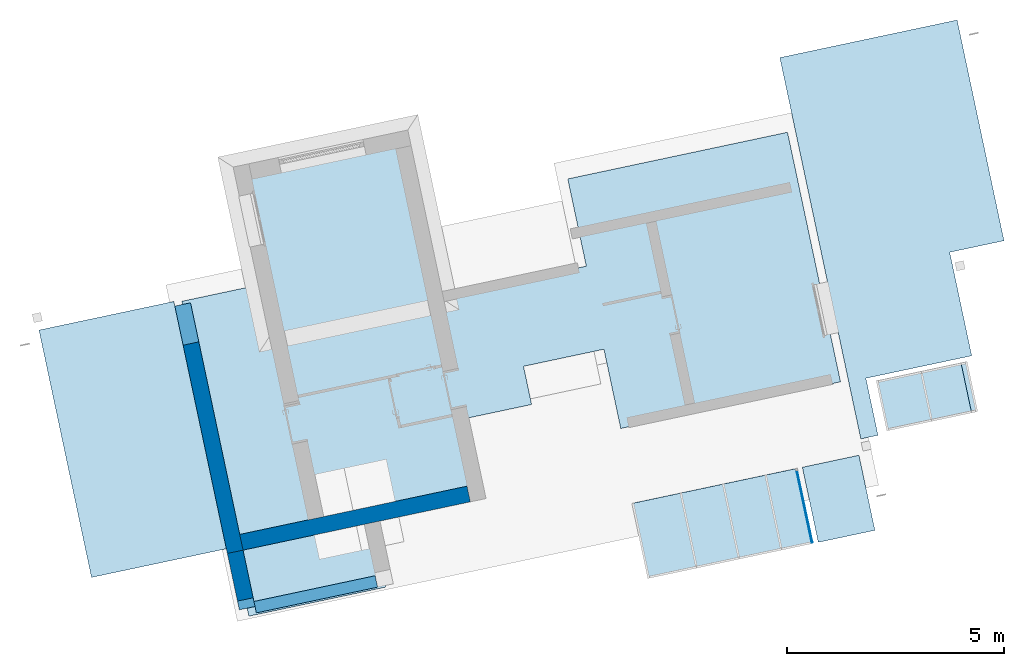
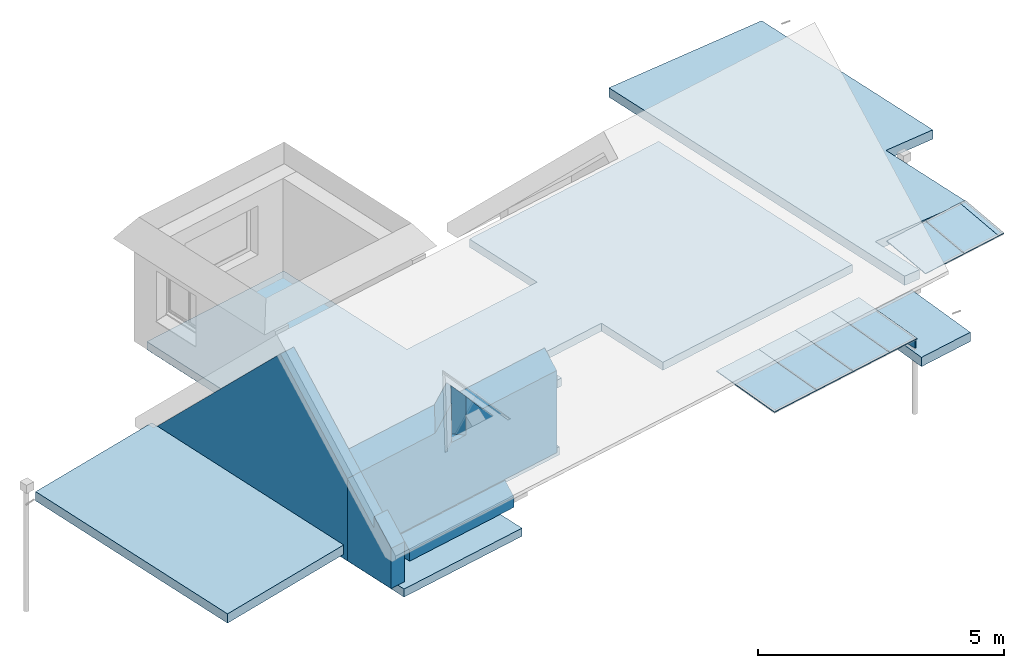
# One storey, part 2 of 10: 8 plates, 4 slabs, 4 walls, 6 elements without a shape of their own.
"""IFC2X3 building model written with IfcOpenShell, lengths in centimetres."""

from ifc_helpers import new_model, entity, si_unit, converted_unit, derived_unit, direction, frame, frame_2d, origin, place, context, subcontext, project, spatial, polyline, rectangle, outline, extrude, clip, bounded_halfspace, source, transform, mapped, material, layer, layer_set, layer_usage, type_object, type_shapes, element, aggregate, save


model = new_model("IFC2X3")

# Units and contexts
model_context = context("Model", 3, precision=0.001, world=origin(), true_north=direction((6.12303176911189e-17, 1.0)))
body_context = subcontext(model_context, "Body", "Model", "MODEL_VIEW")
ifc_project = project(units=[si_unit("LENGTHUNIT", "METRE", prefix="CENTI"), si_unit("AREAUNIT", "SQUARE_METRE"), si_unit("VOLUMEUNIT", "CUBIC_METRE"), converted_unit("PLANEANGLEUNIT", "DEGREE", entity("IfcRatioMeasure", 0.0174532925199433), si_unit("PLANEANGLEUNIT", "RADIAN"), dimensions=[0, 0, 0, 0, 0, 0, 0]), si_unit("MASSUNIT", "GRAM", prefix="KILO"), derived_unit("MASSDENSITYUNIT", [(si_unit("MASSUNIT", "GRAM", prefix="KILO"), 1), (si_unit("LENGTHUNIT", "METRE"), -3)]), derived_unit("IONCONCENTRATIONUNIT", [(si_unit("MASSUNIT", "GRAM", prefix="KILO"), 1), (si_unit("LENGTHUNIT", "METRE"), -3)]), derived_unit("MOMENTOFINERTIAUNIT", [(si_unit("LENGTHUNIT", "METRE"), 4)]), si_unit("TIMEUNIT", "SECOND"), si_unit("FREQUENCYUNIT", "HERTZ"), si_unit("THERMODYNAMICTEMPERATUREUNIT", "DEGREE_CELSIUS"), derived_unit("THERMALTRANSMITTANCEUNIT", [(si_unit("MASSUNIT", "GRAM", prefix="KILO"), 1), (si_unit("THERMODYNAMICTEMPERATUREUNIT", "KELVIN"), -1), (si_unit("TIMEUNIT", "SECOND"), -3)]), derived_unit("THERMALCONDUCTANCEUNIT", [(si_unit("MASSUNIT", "GRAM", prefix="KILO"), 1), (si_unit("THERMODYNAMICTEMPERATUREUNIT", "KELVIN"), -1), (si_unit("TIMEUNIT", "SECOND"), -3), (si_unit("LENGTHUNIT", "METRE"), 1)]), derived_unit("VOLUMETRICFLOWRATEUNIT", [(si_unit("LENGTHUNIT", "METRE"), 3), (si_unit("TIMEUNIT", "SECOND"), -1)]), derived_unit("MASSFLOWRATEUNIT", [(si_unit("MASSUNIT", "GRAM", prefix="KILO"), 1), (si_unit("TIMEUNIT", "SECOND"), -1)]), derived_unit("ROTATIONALFREQUENCYUNIT", [(si_unit("TIMEUNIT", "SECOND"), -1)]), si_unit("ELECTRICCURRENTUNIT", "AMPERE"), si_unit("ELECTRICVOLTAGEUNIT", "VOLT"), si_unit("POWERUNIT", "WATT"), si_unit("FORCEUNIT", "NEWTON", prefix="KILO"), si_unit("ILLUMINANCEUNIT", "LUX"), si_unit("LUMINOUSFLUXUNIT", "LUMEN"), si_unit("LUMINOUSINTENSITYUNIT", "CANDELA"), derived_unit("USERDEFINED", [(si_unit("MASSUNIT", "GRAM", prefix="KILO"), -1), (si_unit("LENGTHUNIT", "METRE"), -2), (si_unit("TIMEUNIT", "SECOND"), 3), (si_unit("LUMINOUSFLUXUNIT", "LUMEN"), 1)]), derived_unit("USERDEFINED", [(si_unit("MASSUNIT", "GRAM", prefix="KILO"), 1), (si_unit("TIMEUNIT", "SECOND"), -3), (si_unit("LENGTHUNIT", "METRE"), 3), (si_unit("ELECTRICCURRENTUNIT", "AMPERE"), -2)]), derived_unit("SOUNDPOWERUNIT", [(si_unit("MASSUNIT", "GRAM", prefix="KILO"), 1), (si_unit("TIMEUNIT", "SECOND"), -3), (si_unit("LENGTHUNIT", "METRE"), 2)]), derived_unit("SOUNDPRESSUREUNIT", [(si_unit("MASSUNIT", "GRAM", prefix="KILO"), 1), (si_unit("LENGTHUNIT", "METRE"), -1), (si_unit("TIMEUNIT", "SECOND"), -2)]), derived_unit("LINEARVELOCITYUNIT", [(si_unit("LENGTHUNIT", "METRE"), 1), (si_unit("TIMEUNIT", "SECOND"), -1)]), si_unit("PRESSUREUNIT", "PASCAL"), derived_unit("USERDEFINED", [(si_unit("MASSUNIT", "GRAM", prefix="KILO"), 1), (si_unit("LENGTHUNIT", "METRE"), -2), (si_unit("TIMEUNIT", "SECOND"), -2)]), derived_unit("LINEARFORCEUNIT", [(si_unit("MASSUNIT", "GRAM", prefix="KILO"), 1), (si_unit("TIMEUNIT", "SECOND"), -2)]), derived_unit("PLANARFORCEUNIT", [(si_unit("MASSUNIT", "GRAM", prefix="KILO"), 1), (si_unit("LENGTHUNIT", "METRE"), -1), (si_unit("TIMEUNIT", "SECOND"), -2)]), derived_unit("SPECIFICHEATCAPACITYUNIT", [(si_unit("THERMODYNAMICTEMPERATUREUNIT", "KELVIN"), -1), (si_unit("LENGTHUNIT", "METRE"), 2), (si_unit("TIMEUNIT", "SECOND"), -2)]), derived_unit("HEATINGVALUEUNIT", [(si_unit("LENGTHUNIT", "METRE"), 2), (si_unit("TIMEUNIT", "SECOND"), -2)]), derived_unit("VAPORPERMEABILITYUNIT", [(si_unit("LENGTHUNIT", "METRE"), -1), (si_unit("TIMEUNIT", "SECOND"), 1)]), derived_unit("DYNAMICVISCOSITYUNIT", [(si_unit("MASSUNIT", "GRAM", prefix="KILO"), 1), (si_unit("TIMEUNIT", "SECOND"), -1), (si_unit("LENGTHUNIT", "METRE"), -1)]), derived_unit("THERMALEXPANSIONCOEFFICIENTUNIT", [(si_unit("THERMODYNAMICTEMPERATUREUNIT", "KELVIN"), -1)]), derived_unit("MODULUSOFELASTICITYUNIT", [(si_unit("MASSUNIT", "GRAM", prefix="KILO"), 1), (si_unit("LENGTHUNIT", "METRE"), -1), (si_unit("TIMEUNIT", "SECOND"), -2)]), derived_unit("ISOTHERMALMOISTURECAPACITYUNIT", [(si_unit("LENGTHUNIT", "METRE"), 3), (si_unit("MASSUNIT", "GRAM", prefix="KILO"), -1)]), derived_unit("MOISTUREDIFFUSIVITYUNIT", [(si_unit("TIMEUNIT", "SECOND"), -1), (si_unit("LENGTHUNIT", "METRE"), 2)])], contexts=[model_context])

# Site, building, storey
site_placement = place(None, frame((14083.8920177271, -6853.25409548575, 6900.0), z_axis=(0.0, 0.0, 1.0), x_axis=(0.978188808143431, 0.207717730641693, 0.0)))
site = spatial("IfcSite", under=ifc_project, at=site_placement, Name="Surface", CompositionType="ELEMENT")
building_placement = place(site_placement, origin())
building = spatial("IfcBuilding", under=site, at=building_placement, CompositionType="ELEMENT")
storey_placement = place(building_placement, frame((0.0, 0.0, 289.0)))
storey = spatial("IfcBuildingStorey", under=building, at=storey_placement, Name="_R+1", CompositionType="ELEMENT", Elevation=289.0)

# Slab
ifc_material_1 = material(Name="Béton, précoulé")
ifc_layer_1 = layer(ifc_material_1, 20.0)
ifc_layer_set_1 = layer_set([ifc_layer_1], Name="Sol:*BETON 20")
ifc_layer_usage_1 = layer_usage(ifc_layer_set_1, "AXIS3", "POSITIVE", 0.0)
slab_type_1 = type_object("IfcSlabType", Name="Sol:*BETON 20", PredefinedType="FLOOR", material=ifc_layer_set_1)
slab_1_placement = place(storey_placement, origin())
element("IfcSlab", 1, at=slab_1_placement, inside=storey, type_object=slab_type_1, material=ifc_layer_usage_1, Name="Sol:*BETON 20", ObjectType="Sol:*BETON 20", PredefinedType="FLOOR", context=body_context, shape_type="SweptSolid", body=[
    extrude(outline(polyline([(-345.972496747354, -812.529262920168), (242.487478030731, -812.529262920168), (242.487478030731, -294.387338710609), (55.6343248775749, -294.387338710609), (55.6343248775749, -104.743505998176), (145.634324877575, -104.743505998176), (145.634324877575, 61.6126612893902), (323.987478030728, 61.6126612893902), (323.987478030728, 311.754796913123), (487.794657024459, 311.754796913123), (487.794657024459, 634.612661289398), (-254.779188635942, 634.612661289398), (-254.779188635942, 436.454665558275), (-514.507388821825, 436.454665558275), (-514.507388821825, 61.612661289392), (-140.279188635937, 61.612661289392), (-140.279188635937, -294.387338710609), (-345.972496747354, -294.387338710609), (-345.972496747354, -812.529262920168)])), frame((-7083.84248200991, 15181.6599559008, 0.0), z_axis=(0.0, 0.0, -1.0), x_axis=(0.0, -1.0, 0.0)), (0.0, 0.0, 1.0), 20.0),
])

# Roof, plates
curtain_wall_type_1 = type_object("IfcCurtainWallType", Name="Vitres inclinées:Toit en verre 1m x 2m", PredefinedType="NOTDEFINED")
roof_1_placement = place(storey_placement, frame((0.0, 0.0, -289.0)))
roof_1 = element("IfcRoof", 2, at=roof_1_placement, inside=storey, type_object=curtain_wall_type_1, Name="Vitres inclinées:Toit en verre 1m x 2m", ObjectType="Vitres inclinées:Toit en verre 1m x 2m", ShapeType="NOTDEFINED")
ifc_material_2 = material(Name="Fenêtre - Vitrage")
plate_type_1 = type_object("IfcPlateType", Name="Panneau système:*Vitré (décalé)", PredefinedType="CURTAIN_PANEL", material=ifc_material_2)
shared_shape_1 = source(origin(), body_context, "Body", "SweptSolid", [
    extrude(rectangle(XDim=2.0, YDim=115.500000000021, at=frame_2d((2.22044604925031e-16, 0.0), x_axis=(1.0, 0.0))), frame((0.0, 2.0, 0.0), z_axis=(0.0, 0.0, 1.0), x_axis=(0.0, 1.0, 0.0)), (0.0, 0.0, 1.0), 177.322222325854),
])
type_shapes(plate_type_1, [shared_shape_1])
plate_1_placement = place(roof_1_placement, frame((-6742.70514329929, 14587.6324526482, 355.0), z_axis=(0.0, 0.998408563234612, 0.0563945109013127), x_axis=(1.0, 0.0, 0.0)))
plate_1 = element("IfcPlate", 3, at=plate_1_placement, type_object=plate_type_1, material=ifc_material_2, Name="Panneau système:*Vitré (décalé)", ObjectType="Panneau système:*Vitré (décalé)", context=body_context, shape_type="MappedRepresentation", body=[
    mapped(shared_shape_1, transform((0.0, 0.0, 0.0), scale=1.0)),
])
plate_type_2 = type_object("IfcPlateType", Name="Panneau système:*Vitré (décalé)", PredefinedType="CURTAIN_PANEL", material=ifc_material_2)
shared_shape_2 = source(origin(), body_context, "Body", "SweptSolid", [
    extrude(rectangle(XDim=2.0, YDim=100.000000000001, at=frame_2d((2.22044604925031e-16, 0.0), x_axis=(1.0, 0.0))), frame((0.0, 2.0, 0.0), z_axis=(0.0, 0.0, 1.0), x_axis=(0.0, 1.0, 0.0)), (0.0, 0.0, 1.0), 177.322222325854),
])
type_shapes(plate_type_2, [shared_shape_2])
plate_2_placement = place(roof_1_placement, frame((-6634.95514329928, 14587.6324526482, 355.0), z_axis=(0.0, 0.998408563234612, 0.0563945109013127), x_axis=(1.0, 0.0, 0.0)))
plate_2 = element("IfcPlate", 4, at=plate_2_placement, type_object=plate_type_2, material=ifc_material_2, Name="Panneau système:*Vitré (décalé)", ObjectType="Panneau système:*Vitré (décalé)", context=body_context, shape_type="MappedRepresentation", body=[
    mapped(shared_shape_2, transform((0.0, 0.0, 0.0), scale=1.0)),
])
plate_3_placement = place(roof_1_placement, frame((-6534.95514329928, 14587.6324526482, 355.0), z_axis=(0.0, 0.998408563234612, 0.0563945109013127), x_axis=(1.0, 0.0, 0.0)))
plate_3 = element("IfcPlate", 5, at=plate_3_placement, type_object=plate_type_2, material=ifc_material_2, Name="Panneau système:*Vitré (décalé)", ObjectType="Panneau système:*Vitré (décalé)", context=body_context, shape_type="MappedRepresentation", body=[
    mapped(shared_shape_2, transform((0.0, 0.0, 0.0), scale=1.0)),
])
plate_type_3 = type_object("IfcPlateType", Name="Panneau système:*Vitré (décalé)", PredefinedType="CURTAIN_PANEL", material=ifc_material_2)
shared_shape_3 = source(origin(), body_context, "Body", "SweptSolid", [
    extrude(rectangle(XDim=2.0, YDim=74.6419242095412, at=frame_2d((2.22044604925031e-16, 0.0), x_axis=(1.0, 0.0))), frame((0.0, 2.0, 0.0), z_axis=(0.0, 0.0, 1.0), x_axis=(0.0, 1.0, 0.0)), (0.0, 0.0, 1.0), 177.322222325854),
])
type_shapes(plate_type_3, [shared_shape_3])
plate_4_placement = place(roof_1_placement, frame((-6447.63418119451, 14587.6324526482, 355.0), z_axis=(0.0, 0.998408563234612, 0.0563945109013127), x_axis=(1.0, 0.0, 0.0)))
plate_4 = element("IfcPlate", 6, at=plate_4_placement, type_object=plate_type_3, material=ifc_material_2, Name="Panneau système:*Vitré (décalé)", ObjectType="Panneau système:*Vitré (décalé)", context=body_context, shape_type="MappedRepresentation", body=[
    mapped(shared_shape_3, transform((0.0, 0.0, 0.0), scale=1.0)),
])
aggregate(roof_1, [plate_1, plate_2, plate_3, plate_4])

# Curtain wall, plate
curtain_wall_type_2 = type_object("IfcCurtainWallType", Name="Mur-rideau:*Mur-rideau", PredefinedType="NOTDEFINED")
curtain_wall_placement = place(storey_placement, frame((0.0, 0.0, -289.0)))
curtain_wall = element("IfcCurtainWall", 7, at=curtain_wall_placement, inside=storey, type_object=curtain_wall_type_2, Name="Mur-rideau:*Mur-rideau", ObjectType="Mur-rideau:*Mur-rideau")
plate_type_4 = type_object("IfcPlateType", Name="Panneau système:*Vitré (décalé)", PredefinedType="CURTAIN_PANEL", material=ifc_material_2)
shared_shape_4 = source(origin(), body_context, "Body", "SweptSolid", [
    extrude(outline(polyline([(-12.9589990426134, -84.7093490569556), (8.17424209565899, -84.7093490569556), (17.7437559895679, 84.7093490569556), (-12.9589990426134, 84.7093490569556), (-12.9589990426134, -84.7093490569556)])), frame((0.0, 1.0, 12.9589990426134), z_axis=(0.0, 1.0, 0.0), x_axis=(0.0, 0.0, 1.0)), (0.0, 0.0, 1.0), 2.0),
])
type_shapes(plate_type_4, [shared_shape_4])
plate_5_placement = place(curtain_wall_placement, frame((-6410.31321908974, 14674.8418017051, 329.0), z_axis=(0.0, 0.0, 1.0), x_axis=(0.0, 1.0, 0.0)))
plate_5 = element("IfcPlate", 8, at=plate_5_placement, type_object=plate_type_4, material=ifc_material_2, Name="Panneau système:*Vitré (décalé)", ObjectType="Panneau système:*Vitré (décalé)", context=body_context, shape_type="MappedRepresentation", body=[
    mapped(shared_shape_4, transform((0.0, 0.0, 0.0), scale=1.0)),
])
aggregate(curtain_wall, [plate_5])

# Roof, plates
roof_2_placement = place(storey_placement, frame((0.0, 0.0, -289.0)))
roof_2 = element("IfcRoof", 9, at=roof_2_placement, inside=storey, type_object=curtain_wall_type_1, Name="Vitres inclinées:Toit en verre 1m x 2m", ObjectType="Vitres inclinées:Toit en verre 1m x 2m", ShapeType="NOTDEFINED")
plate_type_5 = type_object("IfcPlateType", Name="Panneau système:*Vitré (décalé)", PredefinedType="CURTAIN_PANEL", material=ifc_material_2)
shared_shape_5 = source(origin(), body_context, "Body", "SweptSolid", [
    extrude(rectangle(XDim=2.0, YDim=106.0, at=frame_2d((2.22044604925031e-16, 0.0), x_axis=(1.0, 0.0))), frame((0.0, 2.0, 0.0), z_axis=(0.0, 0.0, 1.0), x_axis=(0.0, 1.0, 0.0)), (0.0, 0.0, 1.0), 119.577542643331),
])
type_shapes(plate_type_5, [shared_shape_5])
plate_6_placement = place(roof_2_placement, frame((-6137.31321908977, 14806.1673447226, 299.0), z_axis=(0.0, 0.985913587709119, 0.167255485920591), x_axis=(1.0, 0.0, 0.0)))
plate_6 = element("IfcPlate", 10, at=plate_6_placement, type_object=plate_type_5, material=ifc_material_2, Name="Panneau système:*Vitré (décalé)", ObjectType="Panneau système:*Vitré (décalé)", context=body_context, shape_type="MappedRepresentation", body=[
    mapped(shared_shape_5, transform((0.0, 0.0, 0.0), scale=1.0)),
])
plate_type_6 = type_object("IfcPlateType", Name="Panneau système:*Vitré (décalé)", PredefinedType="CURTAIN_PANEL", material=ifc_material_2)
shared_shape_6 = source(origin(), body_context, "Body", "SweptSolid", [
    extrude(rectangle(XDim=2.0, YDim=93.9999999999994, at=frame_2d((2.22044604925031e-16, 0.0), x_axis=(1.0, 0.0))), frame((0.0, 2.0, 0.0), z_axis=(0.0, 0.0, 1.0), x_axis=(0.0, 1.0, 0.0)), (0.0, 0.0, 1.0), 119.577542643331),
])
type_shapes(plate_type_6, [shared_shape_6])
plate_7_placement = place(roof_2_placement, frame((-6037.31321908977, 14806.1673447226, 299.0), z_axis=(0.0, 0.985913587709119, 0.167255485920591), x_axis=(1.0, 0.0, 0.0)))
plate_7 = element("IfcPlate", 11, at=plate_7_placement, type_object=plate_type_6, material=ifc_material_2, Name="Panneau système:*Vitré (décalé)", ObjectType="Panneau système:*Vitré (décalé)", context=body_context, shape_type="MappedRepresentation", body=[
    mapped(shared_shape_6, transform((0.0, 0.0, 0.0), scale=1.0)),
])
plate_type_7 = type_object("IfcPlateType", Name="Panneau système:*Vitré (décalé)", PredefinedType="CURTAIN_PANEL", material=ifc_material_2)
shared_shape_7 = source(origin(), body_context, "Body", "SweptSolid", [
    extrude(rectangle(XDim=2.0, YDim=14.500000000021, at=frame_2d((2.22044604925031e-16, 0.0), x_axis=(1.0, 0.0))), frame((0.0, 2.0, 0.0), z_axis=(0.0, 0.0, 1.0), x_axis=(0.0, 1.0, 0.0)), (0.0, 0.0, 1.0), 119.577542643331),
])
type_shapes(plate_type_7, [shared_shape_7])
plate_8_placement = place(roof_2_placement, frame((-5983.06321908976, 14806.1673447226, 299.0), z_axis=(0.0, 0.985913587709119, 0.167255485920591), x_axis=(1.0, 0.0, 0.0)))
plate_8 = element("IfcPlate", 12, at=plate_8_placement, type_object=plate_type_7, material=ifc_material_2, Name="Panneau système:*Vitré (décalé)", ObjectType="Panneau système:*Vitré (décalé)", context=body_context, shape_type="MappedRepresentation", body=[
    mapped(shared_shape_7, transform((0.0, 0.0, 0.0), scale=1.0)),
])
aggregate(roof_2, [plate_6, plate_7, plate_8])

# Roof, slab
roof_3_placement = place(storey_placement, frame((-6398.31321908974, 14587.6324526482, -11.0315639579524)))
roof_3 = element("IfcRoof", 13, at=roof_3_placement, inside=storey, Name="Toit de base:Bac zinc Ep 23mm", ObjectType="Toit de base:Bac zinc Ep 23mm", ShapeType="NOTDEFINED")
ifc_material_3 = material(Name="1212.FINITION FACADE - Bardage Zinc ton gris")
ifc_layer_2 = layer(ifc_material_3, 1.0)
ifc_material_4 = material(Name="Bois d'oeuvre, C16")
ifc_layer_3 = layer(ifc_material_4, 22.0)
ifc_layer_set_2 = layer_set([ifc_layer_2, ifc_layer_3], Name="Toit de base:Bac zinc Ep 23mm")
slab_type_2 = type_object("IfcSlabType", Name="Toit de base:Bac zinc Ep 23mm", PredefinedType="ROOF")
slab_2_placement = place(roof_3_placement, origin())
slab_2 = element("IfcSlab", 14, at=slab_2_placement, type_object=slab_type_2, material=ifc_layer_set_2, Name="Toit de base:Bac zinc Ep 23mm", ObjectType="Toit de base:Bac zinc Ep 23mm", PredefinedType="ROOF", context=body_context, shape_type="SweptSolid", body=[
    extrude(rectangle(XDim=133.499999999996, YDim=177.472338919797, at=frame_2d((0.0, 0.0), x_axis=(-1.0, 0.0))), frame((66.7499999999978, 88.5200126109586, 6.18992227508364), z_axis=(0.0, -0.0697564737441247, 0.997564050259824), x_axis=(1.0, 0.0, 0.0)), (0.0, 0.0697564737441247, 0.997564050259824), 23.0561636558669),
])
aggregate(roof_3, [slab_2])

roof_4_placement = place(storey_placement, frame((-6252.81321908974, 14800.6673447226, -17.7529898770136)))
roof_4 = element("IfcRoof", 15, at=roof_4_placement, inside=storey, Name="Toit de base:Bac zinc Ep 23mm", ObjectType="Toit de base:Bac zinc Ep 23mm", ShapeType="NOTDEFINED")
slab_3_placement = place(roof_4_placement, origin())
slab_3 = element("IfcSlab", 16, at=slab_3_placement, type_object=slab_type_2, material=ifc_layer_set_2, Name="Toit de base:Bac zinc Ep 23mm", ObjectType="Toit de base:Bac zinc Ep 23mm", PredefinedType="ROOF", context=body_context, shape_type="SweptSolid", body=[
    extrude(outline(polyline([(-209.510356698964, 449.499999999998), (-209.510356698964, -449.499999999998), (-168.911459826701, -449.499999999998), (-168.911459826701, -315.106875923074), (81.197793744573, -315.106875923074), (81.197793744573, -304.106875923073), (81.197793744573, -71.0), (209.510356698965, -71.0), (209.510356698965, -59.4999999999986), (209.510356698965, 449.499999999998), (199.485937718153, 449.499999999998), (-203.495705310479, 449.499999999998), (-209.510356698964, 449.499999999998)])), frame((209.0, 449.499999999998, 14.6147036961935), z_axis=(0.0697564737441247, 0.0, 0.997564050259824), x_axis=(0.997564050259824, 0.0, -0.0697564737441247)), (-0.0697564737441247, 0.0, 0.997564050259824), 23.0561636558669),
])
aggregate(roof_4, [slab_3])

roof_5_placement = place(storey_placement, frame((-8054.9551432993, 14856.6724778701, -11.8253585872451)))
roof_5 = element("IfcRoof", 17, at=roof_5_placement, inside=storey, Name="Toit de base:Bac zinc Ep 23mm", ObjectType="Toit de base:Bac zinc Ep 23mm", ShapeType="NOTDEFINED")
slab_4_placement = place(roof_5_placement, origin())
slab_4 = element("IfcSlab", 18, at=slab_4_placement, type_object=slab_type_2, material=ifc_layer_set_2, Name="Toit de base:Bac zinc Ep 23mm", ObjectType="Toit de base:Bac zinc Ep 23mm", PredefinedType="ROOF", context=body_context, shape_type="SweptSolid", body=[
    extrude(rectangle(XDim=318.776523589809, YDim=583.266666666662, at=frame_2d((-4.40536496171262e-13, 0.0), x_axis=(1.0, 0.0))), frame((159.0, 291.633333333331, 11.1183630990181), z_axis=(-0.0697564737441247, 0.0, 0.997564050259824), x_axis=(0.997564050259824, 0.0, 0.0697564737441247)), (0.0697564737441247, 0.0, 0.997564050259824), 23.0561636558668),
])
aggregate(roof_5, [slab_4])

# Walls
ifc_material_5 = material(Name="__ ENDUIT_Blanc")
ifc_layer_4 = layer(ifc_material_5, 2.0)
ifc_material_6 = material(Name="__ BETON_parpaings")
ifc_layer_5 = layer(ifc_material_6, 20.0)
ifc_material_7 = material(Name="__ ISOLANT (pat 1)")
ifc_layer_6 = layer(ifc_material_7, 13.0)
ifc_layer_7 = layer(ifc_material_5, 2.0)
ifc_layer_set_3 = layer_set([ifc_layer_4, ifc_layer_5, ifc_layer_6, ifc_layer_7], Name="Mur de base:*BRIQUE 37 (20 +INT 13+2 + EXT 2) (Iso+BA13)(enduit)")
ifc_layer_usage_2 = layer_usage(ifc_layer_set_3, "AXIS2", "NEGATIVE", 18.5)
wall_type_1 = type_object("IfcWallType", Name="Mur de base:*BRIQUE 37 (20 +INT 13+2 + EXT 2) (Iso+BA13)(enduit)", PredefinedType="STANDARD", material=ifc_layer_set_3)
wall_1_placement = place(storey_placement, frame((-7163.95514329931, 14864.1724778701, 0.0), z_axis=(0.0, 0.0, 1.0), x_axis=(-1.0, 0.0, 0.0)))
element("IfcWallStandardCase", 19, at=wall_1_placement, inside=storey, type_object=wall_type_1, material=ifc_layer_usage_2, Name="Mur de base:*BRIQUE 37 (20 +INT 13+2 + EXT 2) (Iso+BA13)(enduit)", ObjectType="Mur de base:*BRIQUE 37 (20 +INT 13+2 + EXT 2) (Iso+BA13)(enduit)", context=body_context, shape_type="Clipping", body=[
    clip(clip(clip(clip(clip(extrude(rectangle(XDim=535.999999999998, YDim=36.9999999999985, at=frame_2d((267.999999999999, -1.77635683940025e-15), x_axis=(-1.0, 0.0))), origin(), (0.0, 0.0, 1.0), 280.175359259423), bounded_halfspace(frame((536.0, -18.500000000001, 241.0), z_axis=(0.0, 0.707106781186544, 0.707106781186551), x_axis=(-1.0, 0.0, 0.0)), False, frame((536.0, -18.500000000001, 241.0)), polyline([(0.0, 0.0), (0.0, 37.0), (-203.39193748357, 37.0), (-234.43862383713, 0.0), (0.0, 0.0)]))), bounded_halfspace(frame((332.608062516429, 18.4999999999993, 204.0), z_axis=(0.766044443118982, 0.0, 0.642787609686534), x_axis=(0.0, 1.0, 0.0)), False, frame((332.608062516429, 18.4999999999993, 204.0)), polyline([(0.0, 0.0), (-43.906644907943, 0.0), (-63.9187158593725, -23.8494574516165), (-63.9187158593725, -37.0), (-31.0466863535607, -37.0), (0.0, 0.0)]))), bounded_halfspace(frame((235.817317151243, -18.4999999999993, 241.0), z_axis=(-0.766044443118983, 0.0, 0.642787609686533), x_axis=(0.0, 1.0, 0.0)), False, frame((235.817317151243, -18.4999999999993, 241.0)), polyline([(0.0, 0.0), (21.8374141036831, 0.0), (32.8720295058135, 0.0), (32.8720295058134, 13.1505425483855), (12.8599585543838, 37.0), (-31.0466863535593, 37.0), (0.0, 0.0)]))), bounded_halfspace(frame((0.0, -18.500000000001, 241.0), z_axis=(0.0, 0.707106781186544, 0.707106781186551), x_axis=(-1.0, 0.0, 0.0)), False, frame((0.0, -18.500000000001, 241.0)), polyline([(0.0, 0.0), (235.81731715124, 0.0), (204.770630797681, 37.0), (0.0, 37.0), (0.0, 0.0)]))), bounded_halfspace(frame((268.689346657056, -5.34945745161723, 160.0), z_axis=(0.0, 0.0, 1.0), x_axis=(0.0, 1.0, 0.0)), False, frame((268.689346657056, -5.34945745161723, 160.0)), polyline([(0.0, 0.0), (20.0120709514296, 23.8494574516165), (-20.0120709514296, 23.8494574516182), (0.0, 0.0)]))),
])
wall_2_placement = place(storey_placement, frame((-7718.4551432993, 14845.6724778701, 0.0), z_axis=(0.0, 0.0, 1.0), x_axis=(0.0, 1.0, 0.0)))
element("IfcWallStandardCase", 20, at=wall_2_placement, inside=storey, type_object=wall_type_1, material=ifc_layer_usage_2, Name="Mur de base:*BRIQUE 37 (20 +INT 13+2 + EXT 2) (Iso+BA13)(enduit)", ObjectType="Mur de base:*BRIQUE 37 (20 +INT 13+2 + EXT 2) (Iso+BA13)(enduit)", context=body_context, shape_type="Clipping", body=[
    clip(clip(extrude(rectangle(XDim=583.266666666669, YDim=37.0000000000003, at=frame_2d((291.633333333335, -2.1316282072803e-14), x_axis=(-1.0, 0.0))), origin(), (0.0, 0.0, 1.0), 407.633333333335), bounded_halfspace(frame((203.63333333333, -18.5000000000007, 407.633333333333), z_axis=(0.707106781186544, 0.0, 0.707106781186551), x_axis=(0.0, 1.0, 0.0)), False, frame((203.63333333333, -18.5000000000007, 407.633333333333)), polyline([(0.0, 0.0), (379.633333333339, 0.0), (379.633333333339, 37.0), (0.0, 37.0), (0.0, 0.0)]))), bounded_halfspace(frame((0.0, -18.5000000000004, 204.0), z_axis=(-0.707106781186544, 0.0, 0.707106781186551), x_axis=(0.0, -1.0, 0.0)), False, frame((0.0, -18.5000000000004, 204.0)), polyline([(0.0, 0.0), (37.0, 0.0), (203.63333333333, 0.0), (203.63333333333, 37.0), (0.0, 37.0), (0.0, 0.0)]))),
])
wall_3_placement = place(storey_placement, frame((-7718.4551432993, 14712.6724778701, 0.0), z_axis=(0.0, 0.0, 1.0), x_axis=(0.0, 1.0, 0.0)))
element("IfcWallStandardCase", 21, at=wall_3_placement, inside=storey, type_object=wall_type_1, material=ifc_layer_usage_2, Name="Mur de base:*BRIQUE 37 (20 +INT 13+2 + EXT 2) (Iso+BA13)(enduit)", ObjectType="Mur de base:*BRIQUE 37 (20 +INT 13+2 + EXT 2) (Iso+BA13)(enduit)", context=body_context, shape_type="Clipping", body=[
    clip(clip(extrude(rectangle(XDim=132.999999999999, YDim=37.0000000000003, at=frame_2d((66.4999999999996, -1.97175609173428e-13), x_axis=(-1.0, 0.0))), origin(), (0.0, 0.0, 1.0), 204.000000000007), bounded_halfspace(frame((52.0, -18.5000000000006, 123.0), z_axis=(-0.707106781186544, 0.0, 0.707106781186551), x_axis=(0.0, -1.0, 0.0)), False, frame((52.0, -18.5000000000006, 123.0)), polyline([(0.0, 0.0), (81.0, 0.0), (81.0, 37.0), (0.0, 37.0), (0.0, 0.0)]))), bounded_halfspace(frame((0.0, -18.5, 99.5676767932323), z_axis=(-0.707106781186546, 0.0, 0.707106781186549), x_axis=(0.0, -1.0, 0.0)), False, frame((0.0, -18.5, 99.5676767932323)), polyline([(0.0, 0.0), (52.0, 0.0), (52.0, 37.0), (0.0, 37.0), (0.0, 0.0)]))),
])
ifc_layer_8 = layer(ifc_material_5, 2.0)
ifc_layer_9 = layer(ifc_material_7, 13.0)
ifc_material_8 = material(Name="__ BOIS (charpente)")
ifc_layer_10 = layer(ifc_material_8, 10.0)
ifc_layer_11 = layer(ifc_material_5, 2.0)
ifc_layer_set_4 = layer_set([ifc_layer_8, ifc_layer_9, ifc_layer_10, ifc_layer_11], Name="Mur de base:*Bois + Iso+BA13 (e27)")
ifc_layer_usage_3 = layer_usage(ifc_layer_set_4, "AXIS2", "POSITIVE", -13.5)
wall_type_2 = type_object("IfcWallType", Name="Mur de base:*Bois + Iso+BA13 (e27)", PredefinedType="STANDARD", material=ifc_layer_set_4)
wall_4_placement = place(storey_placement, frame((-7699.9551432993, 14711.1324526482, 58.5000000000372)))
element("IfcWallStandardCase", 22, at=wall_4_placement, inside=storey, type_object=wall_type_2, material=ifc_layer_usage_3, Name="Mur de base:*Bois + Iso+BA13 (e27)", ObjectType="Mur de base:*Bois + Iso+BA13 (e27)", context=body_context, shape_type="Clipping", body=[
    clip(extrude(rectangle(XDim=285.857864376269, YDim=27.0000000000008, at=frame_2d((142.928932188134, 0.0), x_axis=(-1.0, 0.0))), origin(), (0.0, 0.0, 1.0), 53.0276515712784), bounded_halfspace(frame((0.0, -13.5000000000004, 26.0276515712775), z_axis=(0.0, -0.707106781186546, 0.707106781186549), x_axis=(1.0, 0.0, 0.0)), False, frame((0.0, -13.5000000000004, 26.0276515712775)), polyline([(0.0, 0.0), (285.857864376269, 0.0), (285.857864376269, 27.0), (0.0, 27.0), (0.0, 0.0)]))),
])

save(model, "model.ifc")
